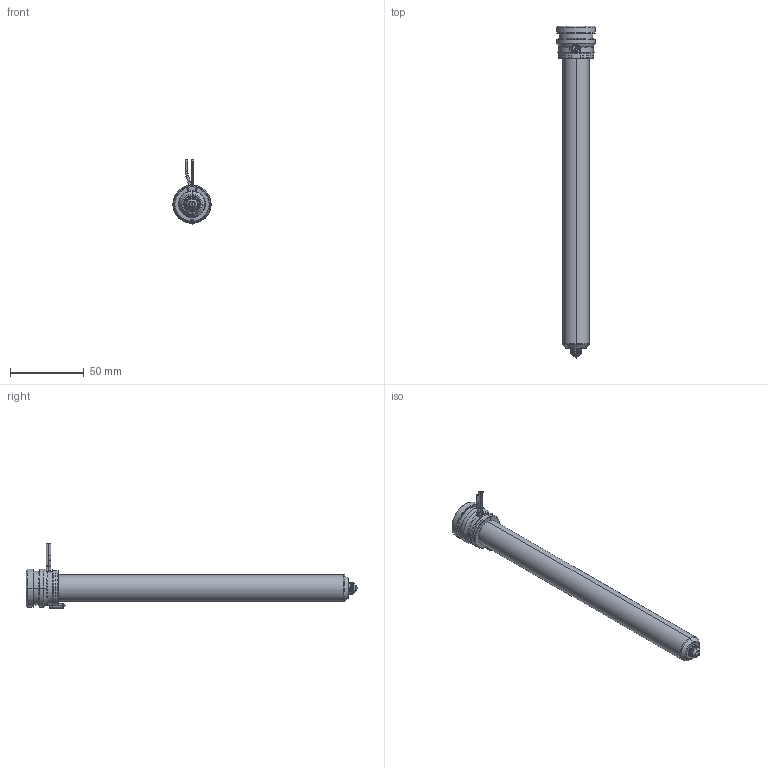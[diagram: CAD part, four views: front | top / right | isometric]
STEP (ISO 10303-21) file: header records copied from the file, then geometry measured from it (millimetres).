
FILE_DESCRIPTION((''),'2;1');
FILE_NAME('MPN-08-24-VX8-206-A','2026-02-05T12:01:00',('UPTIO'),('Thermoplay S.p.A.'),'CREO PARAMETRIC BY PTC INC, 2023494','CREO PARAMETRIC BY PTC INC, 2023494','');
FILE_SCHEMA(('CONFIG_CONTROL_DESIGN','SHAPE_APPEARANCE_LAYERS_GROUPS'));
Length unit declared in the file: millimetre
Products named in the file (1): MPN-08-24-VX8-206-A
Bounding box: 26 x 225.5 x 43.5 mm (x, y, z)
Volume: 41368.3 mm3; surface area: 54778.4 mm2
Topology: 2 solids, 3 shells, 545 faces, 1438 edges, 891 vertices
Faces by surface type: cylinder 180, plane 143, bspline 82, cone 62, torus 62, sphere 10, extrusion 6
Entity records: 29287 total; most frequent: CARTESIAN_POINT 13048, ORIENTED_EDGE 2860, DIRECTION 2578, EDGE_CURVE 1430, AXIS2_PLACEMENT_3D 1007, VERTEX_POINT 891, EDGE_LOOP 573, VECTOR 564
